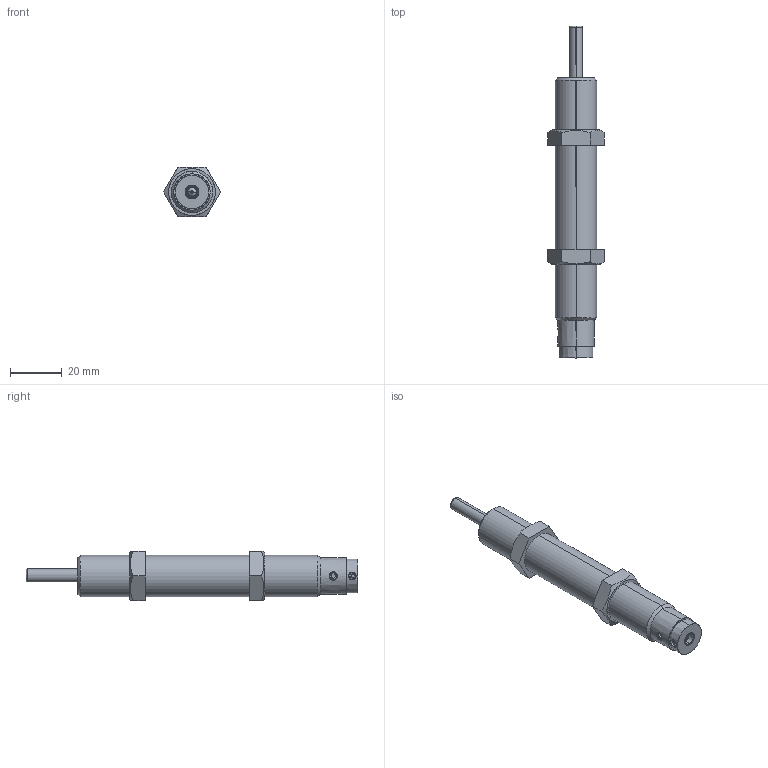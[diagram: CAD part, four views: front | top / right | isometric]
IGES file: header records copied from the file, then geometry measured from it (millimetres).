
Start section: SolidWorks IGES file using analytic representation for surfaces
Bounding box: 21.94 x 128 x 19 mm (x, y, z)
Surface area: 8136.3 mm2 (no closed solid volume)
Topology: 0 solids, 0 shells, 101 faces, 1494 edges, 1494 vertices
Faces by surface type: bspline 59, revolution 42
